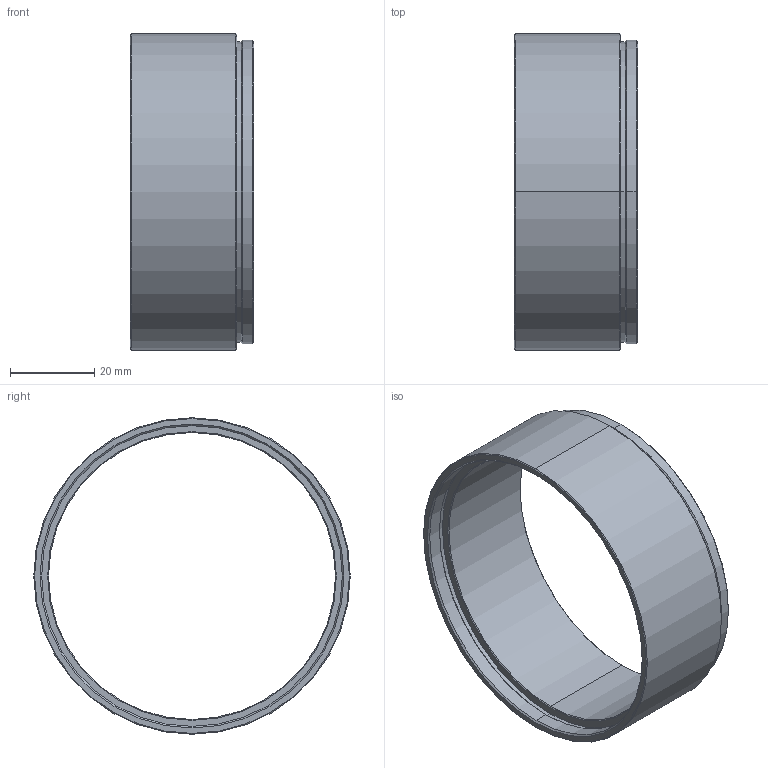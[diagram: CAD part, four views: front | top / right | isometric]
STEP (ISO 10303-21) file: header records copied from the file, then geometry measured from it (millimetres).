
FILE_DESCRIPTION (( 'STEP AP203' ), '1' );
FILE_NAME ('VS-MT-FB6.56.STEP', '2018-01-11T07:26:59', ( 'miura_vst' ), ( '' ), 'SwSTEP 2.0', 'SolidWorks 2017', '' );
FILE_SCHEMA (( 'CONFIG_CONTROL_DESIGN' ));
Length unit declared in the file: millimetre
Products named in the file (1): VS-MT-FB6.56
Bounding box: 29.24 x 75 x 75 mm (x, y, z)
Volume: 19575.3 mm3; surface area: 14756.3 mm2
Topology: 1 solids, 1 shells, 32 faces, 64 edges, 36 vertices
Faces by surface type: cone 16, cylinder 12, plane 4
Entity records: 905 total; most frequent: DIRECTION 166, CARTESIAN_POINT 133, ORIENTED_EDGE 128, AXIS2_PLACEMENT_3D 69, EDGE_CURVE 64, CIRCLE 36, VERTEX_POINT 36, EDGE_LOOP 36
